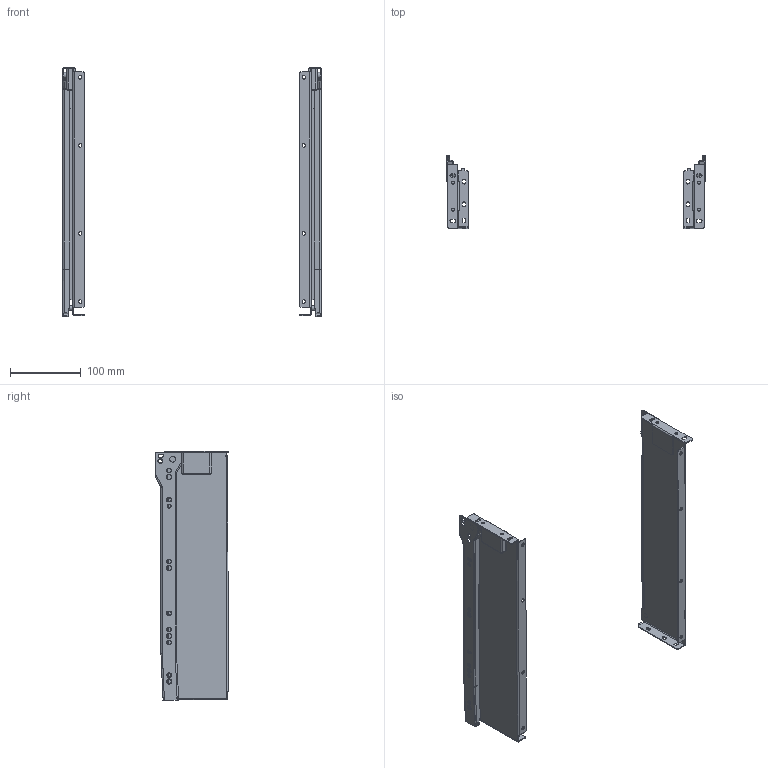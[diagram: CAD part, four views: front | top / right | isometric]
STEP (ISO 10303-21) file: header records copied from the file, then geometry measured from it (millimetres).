
FILE_DESCRIPTION(/* description */ (''),/* implementation_level */ '2;1');
FILE_NAME(/* name */ 'D:\$Workingspace\Designs\Katalog\Cadsoft\GTV Prwadnice II\MP (2)\MP\Metal box 3D\MP-086350-10.stp',/* time_stamp */ '2017-02-09T10:11:02+01:00',/* author */ ('tomaszw'),/* organization */ (''),/* preprocessor_version */ 'ST-DEVELOPER v16.1',/* originating_system */ 'Autodesk Inventor 2016',/* authorisation */ '');
FILE_SCHEMA (('CONFIG_CONTROL_DESIGN'));
Length unit declared in the file: millimetre
Products named in the file (5): MP-350-10_CL; MP-350-10_CR; MP-086350-10_DL; MP-086350-10_DR; MP
Assembly tree (4 placements, depth 2):
  MP
    MP-350-10_CL
    MP-350-10_CR
    MP-086350-10_DL
    MP-086350-10_DR
Bounding box: 364 x 102.56 x 351.23 mm (x, y, z)
Volume: 160325.8 mm3; surface area: 232310.4 mm2
Topology: 8 solids, 8 shells, 484 faces, 1250 edges, 794 vertices
Faces by surface type: plane 222, cylinder 200, cone 30, torus 20, sphere 12
Full cylindrical faces by diameter (mm): 4 x4, 4.8 x2, 5 x8, 5.5 x12, 6.5 x8, 7 x4, 8 x4, 18.5 x4
Entity records: 15265 total; most frequent: CARTESIAN_POINT 2675, DIRECTION 2572, ORIENTED_EDGE 2332, EDGE_CURVE 1166, AXIS2_PLACEMENT_3D 931, VERTEX_POINT 786, LINE 710, VECTOR 710
